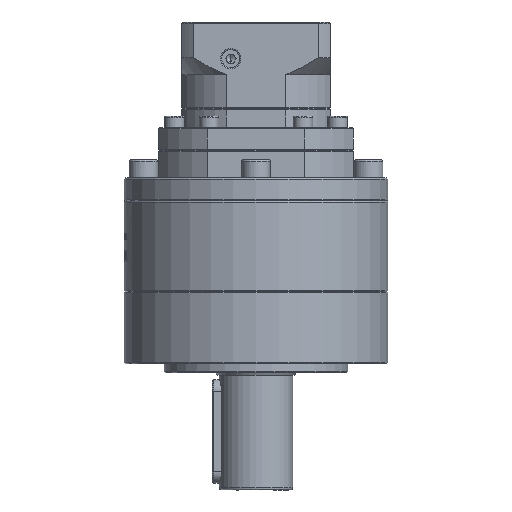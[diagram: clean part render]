
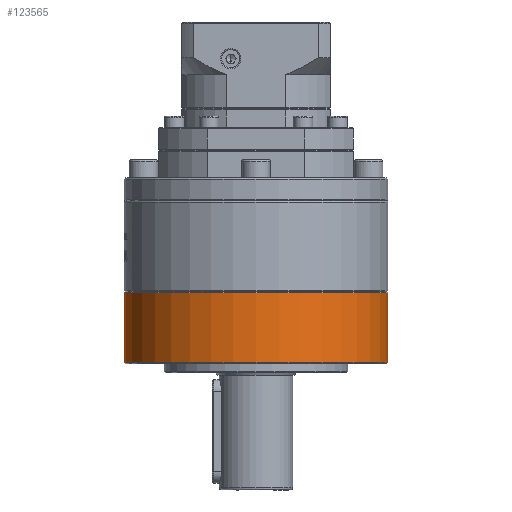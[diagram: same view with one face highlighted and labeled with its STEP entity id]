
A CAD part, left-side view. The second image highlights one B-rep face of the part: STEP entity #123565.
In plain terms, the highlighted cylindrical face has radius 57.5 mm (diameter 115 mm), a partial arc.
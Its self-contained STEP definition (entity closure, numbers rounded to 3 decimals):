
#1508 = DIRECTION ( 'NONE',  ( 0., 0., 1. ) ) ;
#2082 = EDGE_CURVE ( 'NONE', #44595, #57182, #96006, .T. ) ;
#8009 = ORIENTED_EDGE ( 'NONE', *, *, #91786, .T. ) ;
#11866 = ORIENTED_EDGE ( 'NONE', *, *, #106442, .T. ) ;
#13492 = CARTESIAN_POINT ( 'NONE',  ( -66.228, -27.031, -106.798 ) ) ;
#14355 = VECTOR ( 'NONE', #1508, 1000. ) ;
#24889 = LINE ( 'NONE', #13492, #51765 ) ;
#33959 = CYLINDRICAL_SURFACE ( 'NONE', #96808, 57.5 ) ;
#35260 = CARTESIAN_POINT ( 'NONE',  ( -66.228, 30.469, -119.298 ) ) ;
#39703 = DIRECTION ( 'NONE',  ( 0., 0., 1. ) ) ;
#40584 = CARTESIAN_POINT ( 'NONE',  ( -66.228, 87.969, -88.798 ) ) ;
#41987 = EDGE_CURVE ( 'NONE', #97606, #44595, #44398, .T. ) ;
#44398 = LINE ( 'NONE', #62039, #14355 ) ;
#44595 = VERTEX_POINT ( 'NONE', #40584 ) ;
#45439 = DIRECTION ( 'NONE',  ( 0., 1., 0. ) ) ;
#51765 = VECTOR ( 'NONE', #67170, 1000. ) ;
#57182 = VERTEX_POINT ( 'NONE', #101741 ) ;
#57807 = AXIS2_PLACEMENT_3D ( 'NONE', #35260, #105918, #45439 ) ;
#59086 = CARTESIAN_POINT ( 'NONE',  ( -66.228, 30.469, -106.798 ) ) ;
#62039 = CARTESIAN_POINT ( 'NONE',  ( -66.228, 87.969, -106.798 ) ) ;
#67170 = DIRECTION ( 'NONE',  ( 0., 0., 1. ) ) ;
#69187 = DIRECTION ( 'NONE',  ( 0., 0., 1. ) ) ;
#77975 = CARTESIAN_POINT ( 'NONE',  ( -66.228, 87.969, -119.298 ) ) ;
#89811 = ORIENTED_EDGE ( 'NONE', *, *, #2082, .F. ) ;
#91786 = EDGE_CURVE ( 'NONE', #97606, #120363, #95023, .T. ) ;
#92147 = CARTESIAN_POINT ( 'NONE',  ( -66.228, -27.031, -119.298 ) ) ;
#95023 = CIRCLE ( 'NONE', #57807, 57.5 ) ;
#96006 = CIRCLE ( 'NONE', #109503, 57.5 ) ;
#96808 = AXIS2_PLACEMENT_3D ( 'NONE', #59086, #69187, #109799 ) ;
#97606 = VERTEX_POINT ( 'NONE', #77975 ) ;
#100163 = CARTESIAN_POINT ( 'NONE',  ( -66.228, 30.469, -88.798 ) ) ;
#101741 = CARTESIAN_POINT ( 'NONE',  ( -66.228, -27.031, -88.798 ) ) ;
#105918 = DIRECTION ( 'NONE',  ( 0., 0., 1. ) ) ;
#106442 = EDGE_CURVE ( 'NONE', #120363, #57182, #24889, .T. ) ;
#109503 = AXIS2_PLACEMENT_3D ( 'NONE', #100163, #39703, #110305 ) ;
#109799 = DIRECTION ( 'NONE',  ( 0., 1., 0. ) ) ;
#110305 = DIRECTION ( 'NONE',  ( 0., -1., 0. ) ) ;
#111548 = EDGE_LOOP ( 'NONE', ( #8009, #11866, #89811, #115535 ) ) ;
#115535 = ORIENTED_EDGE ( 'NONE', *, *, #41987, .F. ) ;
#120363 = VERTEX_POINT ( 'NONE', #92147 ) ;
#123565 = ADVANCED_FACE ( 'NONE', ( #123962 ), #33959, .T. ) ;
#123962 = FACE_OUTER_BOUND ( 'NONE', #111548, .T. ) ;
